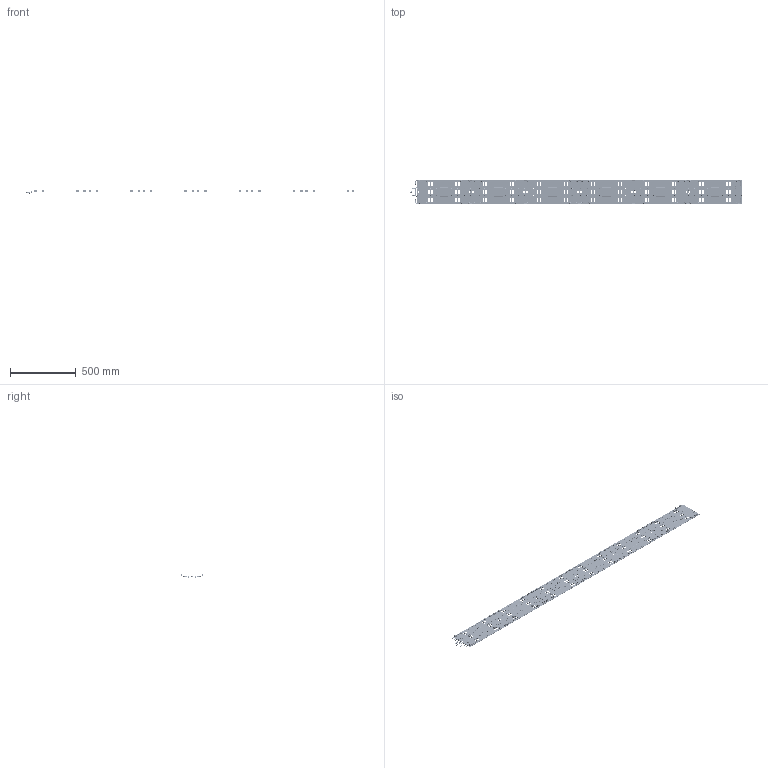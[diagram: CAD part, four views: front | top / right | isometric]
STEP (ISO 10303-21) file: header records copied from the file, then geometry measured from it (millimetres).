
FILE_DESCRIPTION(/* description */ (''),/* implementation_level */ '2;1');
FILE_NAME(/* name */ '221103_draft_trayCPs.stp',/* time_stamp */ '2023-03-06T18:29:00+01:00',/* author */ (''),/* organization */ (''),/* preprocessor_version */ 'ST-DEVELOPER v18.102',/* originating_system */ 'SIEMENS PLM Software NX 2000',/* authorisation */ '');
FILE_SCHEMA (('AUTOMOTIVE_DESIGN { 1 0 10303 214 3 1 1 1 }'));
Products named in the file (1): bmas12A87F18hhtg
Bounding box: 2534.62 x 187.45 x 25.45 mm (x, y, z)
Volume: 1800894.3 mm3; surface area: 1702827.9 mm2
Topology: 920 solids, 920 shells, 16134 faces, 42944 edges, 29978 vertices
Faces by surface type: cylinder 8242, plane 6911, cone 465, torus 220, bspline 192, sphere 104
Full cylindrical faces by diameter (mm): 1.9 x96, 2.05 x542, 2.5 x753, 2.7 x480, 2.8 x192, 2.968 x192, 3 x116, 3.175 x48, 3.2 x144, 3.5 x20, 4 x14, 4.7 x192, 4.775 x48, 5 x100, 5.08 x3, 5.334 x3, 5.5 x2, 6 x1104, 6.35 x3, 6.5 x96, 7.938 x3
Entity records: 536064 total; most frequent: DIRECTION 97516, CARTESIAN_POINT 94265, ORIENTED_EDGE 85456, EDGE_CURVE 42728, AXIS2_PLACEMENT_3D 38933, VERTEX_POINT 29978, CIRCLE 22980, EDGE_LOOP 22244
